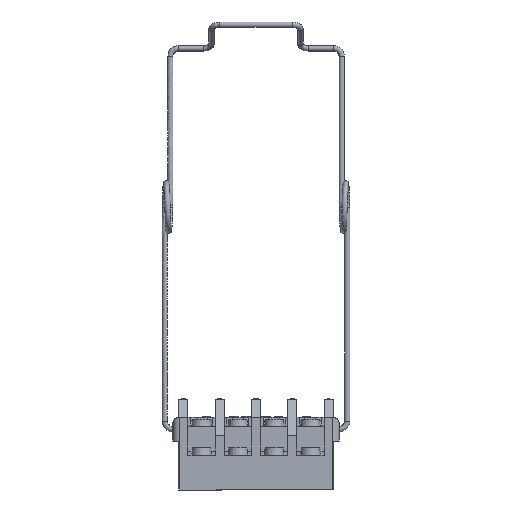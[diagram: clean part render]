
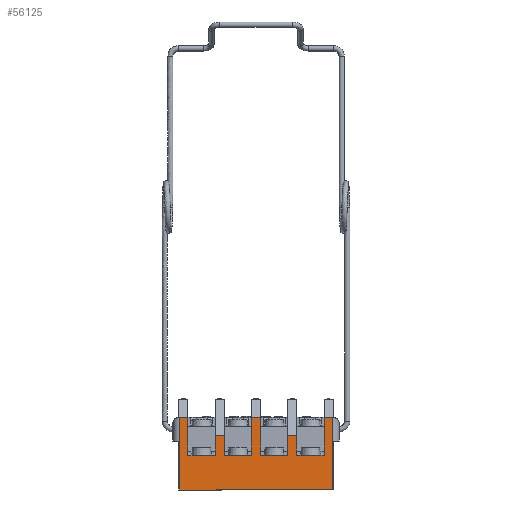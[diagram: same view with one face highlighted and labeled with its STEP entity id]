
A CAD part, left-side view. The second image highlights one B-rep face of the part: STEP entity #56125.
In plain terms, the highlighted planar face has unit normal (-1, 0, 0).
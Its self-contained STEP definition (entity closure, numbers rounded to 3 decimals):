
#14609=CARTESIAN_POINT('',(361.63,277.158,28.858));
#14610=VERTEX_POINT('',#14609);
#14617=CARTESIAN_POINT('',(361.63,277.158,18.458));
#14618=VERTEX_POINT('',#14617);
#14619=CARTESIAN_POINT('',(361.63,277.158,18.458));
#14620=DIRECTION('',(0.0,0.0,1.0));
#14621=VECTOR('',#14620,10.4);
#14622=LINE('',#14619,#14621);
#14623=EDGE_CURVE('',#14618,#14610,#14622,.T.);
#16407=CARTESIAN_POINT('',(361.63,259.658,18.458));
#16408=VERTEX_POINT('',#16407);
#16415=CARTESIAN_POINT('',(361.63,259.658,28.858));
#16416=VERTEX_POINT('',#16415);
#16417=CARTESIAN_POINT('',(361.63,259.658,28.858));
#16418=DIRECTION('',(0.0,0.0,-1.0));
#16419=VECTOR('',#16418,10.4);
#16420=LINE('',#16417,#16419);
#16421=EDGE_CURVE('',#16416,#16408,#16420,.T.);
#16984=CARTESIAN_POINT('',(361.63,249.658,18.458));
#16985=VERTEX_POINT('',#16984);
#16992=CARTESIAN_POINT('',(361.63,249.658,23.858));
#16993=VERTEX_POINT('',#16992);
#16994=CARTESIAN_POINT('',(361.63,249.658,23.858));
#16995=DIRECTION('',(0.0,0.0,-1.0));
#16996=VECTOR('',#16995,5.4);
#16997=LINE('',#16994,#16996);
#16998=EDGE_CURVE('',#16993,#16985,#16997,.T.);
#17561=CARTESIAN_POINT('',(361.63,239.658,18.458));
#17562=VERTEX_POINT('',#17561);
#17569=CARTESIAN_POINT('',(361.63,239.658,28.858));
#17570=VERTEX_POINT('',#17569);
#17571=CARTESIAN_POINT('',(361.63,239.658,28.858));
#17572=DIRECTION('',(0.0,0.0,-1.0));
#17573=VECTOR('',#17572,10.4);
#17574=LINE('',#17571,#17573);
#17575=EDGE_CURVE('',#17570,#17562,#17574,.T.);
#20267=CARTESIAN_POINT('',(361.63,267.158,23.858));
#20268=VERTEX_POINT('',#20267);
#20275=CARTESIAN_POINT('',(361.63,267.158,18.458));
#20276=VERTEX_POINT('',#20275);
#20277=CARTESIAN_POINT('',(361.63,267.158,18.458));
#20278=DIRECTION('',(0.0,0.0,1.0));
#20279=VECTOR('',#20278,5.4);
#20280=LINE('',#20277,#20279);
#20281=EDGE_CURVE('',#20276,#20268,#20280,.T.);
#21049=CARTESIAN_POINT('',(361.63,269.658,18.458));
#21050=VERTEX_POINT('',#21049);
#21057=CARTESIAN_POINT('',(361.63,269.658,23.858));
#21058=VERTEX_POINT('',#21057);
#21059=CARTESIAN_POINT('',(361.63,269.658,23.858));
#21060=DIRECTION('',(0.0,0.0,-1.0));
#21061=VECTOR('',#21060,5.4);
#21062=LINE('',#21059,#21061);
#21063=EDGE_CURVE('',#21058,#21050,#21062,.T.);
#22146=CARTESIAN_POINT('',(361.63,257.158,28.858));
#22147=VERTEX_POINT('',#22146);
#22154=CARTESIAN_POINT('',(361.63,257.158,18.458));
#22155=VERTEX_POINT('',#22154);
#22156=CARTESIAN_POINT('',(361.63,257.158,18.458));
#22157=DIRECTION('',(0.0,0.0,1.0));
#22158=VECTOR('',#22157,10.4);
#22159=LINE('',#22156,#22158);
#22160=EDGE_CURVE('',#22155,#22147,#22159,.T.);
#49877=CARTESIAN_POINT('',(361.63,237.208,28.858));
#49878=VERTEX_POINT('',#49877);
#49886=CARTESIAN_POINT('',(361.63,237.208,8.858));
#49887=VERTEX_POINT('',#49886);
#49888=CARTESIAN_POINT('',(361.63,237.208,28.858));
#49889=DIRECTION('',(0.0,0.0,-1.0));
#49890=VECTOR('',#49889,20.0);
#49891=LINE('',#49888,#49890);
#49892=EDGE_CURVE('',#49878,#49887,#49891,.T.);
#51937=CARTESIAN_POINT('',(361.63,279.608,8.858));
#51938=VERTEX_POINT('',#51937);
#51946=CARTESIAN_POINT('',(361.63,279.608,28.858));
#51947=VERTEX_POINT('',#51946);
#51948=CARTESIAN_POINT('',(361.63,279.608,8.858));
#51949=DIRECTION('',(0.0,0.0,1.0));
#51950=VECTOR('',#51949,20.0);
#51951=LINE('',#51948,#51950);
#51952=EDGE_CURVE('',#51938,#51947,#51951,.T.);
#52014=CARTESIAN_POINT('',(361.63,279.608,28.858));
#52015=DIRECTION('',(0.0,-1.0,0.0));
#52016=VECTOR('',#52015,2.45);
#52017=LINE('',#52014,#52016);
#52018=EDGE_CURVE('',#51947,#14610,#52017,.T.);
#52142=CARTESIAN_POINT('',(361.63,269.658,18.458));
#52143=DIRECTION('',(0.0,1.0,0.0));
#52144=VECTOR('',#52143,7.5);
#52145=LINE('',#52142,#52144);
#52146=EDGE_CURVE('',#21050,#14618,#52145,.T.);
#52721=CARTESIAN_POINT('',(361.63,279.608,8.858));
#52722=DIRECTION('',(0.0,-1.0,0.0));
#52723=VECTOR('',#52722,42.4);
#52724=LINE('',#52721,#52723);
#52725=EDGE_CURVE('',#51938,#49887,#52724,.T.);
#52952=CARTESIAN_POINT('',(361.63,259.658,18.458));
#52953=DIRECTION('',(0.0,1.0,0.0));
#52954=VECTOR('',#52953,7.5);
#52955=LINE('',#52952,#52954);
#52956=EDGE_CURVE('',#16408,#20276,#52955,.T.);
#53416=CARTESIAN_POINT('',(361.63,249.658,18.458));
#53417=DIRECTION('',(0.0,1.0,0.0));
#53418=VECTOR('',#53417,7.5);
#53419=LINE('',#53416,#53418);
#53420=EDGE_CURVE('',#16985,#22155,#53419,.T.);
#53892=CARTESIAN_POINT('',(361.63,247.158,18.458));
#53893=VERTEX_POINT('',#53892);
#53900=CARTESIAN_POINT('',(361.63,239.658,18.458));
#53901=DIRECTION('',(0.0,1.0,0.0));
#53902=VECTOR('',#53901,7.5);
#53903=LINE('',#53900,#53902);
#53904=EDGE_CURVE('',#17562,#53893,#53903,.T.);
#55782=CARTESIAN_POINT('',(361.63,239.658,28.858));
#55783=DIRECTION('',(0.0,-1.0,0.0));
#55784=VECTOR('',#55783,2.45);
#55785=LINE('',#55782,#55784);
#55786=EDGE_CURVE('',#17570,#49878,#55785,.T.);
#55840=CARTESIAN_POINT('',(361.63,259.658,28.858));
#55841=DIRECTION('',(0.0,-1.0,0.0));
#55842=VECTOR('',#55841,2.5);
#55843=LINE('',#55840,#55842);
#55844=EDGE_CURVE('',#16416,#22147,#55843,.T.);
#55928=CARTESIAN_POINT('',(361.63,247.158,23.858));
#55929=VERTEX_POINT('',#55928);
#55930=CARTESIAN_POINT('',(361.63,249.658,23.858));
#55931=DIRECTION('',(0.0,-1.0,0.0));
#55932=VECTOR('',#55931,2.5);
#55933=LINE('',#55930,#55932);
#55934=EDGE_CURVE('',#16993,#55929,#55933,.T.);
#55969=CARTESIAN_POINT('',(361.63,247.158,18.458));
#55970=DIRECTION('',(0.0,0.0,1.0));
#55971=VECTOR('',#55970,5.4);
#55972=LINE('',#55969,#55971);
#55973=EDGE_CURVE('',#53893,#55929,#55972,.T.);
#56074=CARTESIAN_POINT('',(361.63,269.658,23.858));
#56075=DIRECTION('',(0.0,-1.0,0.0));
#56076=VECTOR('',#56075,2.5);
#56077=LINE('',#56074,#56076);
#56078=EDGE_CURVE('',#21058,#20268,#56077,.T.);
#56098=CARTESIAN_POINT('',(361.63,269.658,8.858));
#56099=DIRECTION('',(-1.0,0.0,0.0));
#56100=DIRECTION('',(0.0,0.0,1.0));
#56101=AXIS2_PLACEMENT_3D('',#56098,#56099,#56100);
#56102=PLANE('',#56101);
#56103=ORIENTED_EDGE('',*,*,#52725,.T.);
#56104=ORIENTED_EDGE('',*,*,#49892,.F.);
#56105=ORIENTED_EDGE('',*,*,#55786,.F.);
#56106=ORIENTED_EDGE('',*,*,#17575,.T.);
#56107=ORIENTED_EDGE('',*,*,#53904,.T.);
#56108=ORIENTED_EDGE('',*,*,#55973,.T.);
#56109=ORIENTED_EDGE('',*,*,#55934,.F.);
#56110=ORIENTED_EDGE('',*,*,#16998,.T.);
#56111=ORIENTED_EDGE('',*,*,#53420,.T.);
#56112=ORIENTED_EDGE('',*,*,#22160,.T.);
#56113=ORIENTED_EDGE('',*,*,#55844,.F.);
#56114=ORIENTED_EDGE('',*,*,#16421,.T.);
#56115=ORIENTED_EDGE('',*,*,#52956,.T.);
#56116=ORIENTED_EDGE('',*,*,#20281,.T.);
#56117=ORIENTED_EDGE('',*,*,#56078,.F.);
#56118=ORIENTED_EDGE('',*,*,#21063,.T.);
#56119=ORIENTED_EDGE('',*,*,#52146,.T.);
#56120=ORIENTED_EDGE('',*,*,#14623,.T.);
#56121=ORIENTED_EDGE('',*,*,#52018,.F.);
#56122=ORIENTED_EDGE('',*,*,#51952,.F.);
#56123=EDGE_LOOP('',(#56103,#56104,#56105,#56106,#56107,#56108,#56109,#56110,#56111,#56112,#56113,#56114,#56115,#56116,#56117,#56118,#56119,#56120,#56121,#56122));
#56124=FACE_OUTER_BOUND('',#56123,.T.);
#56125=ADVANCED_FACE('',(#56124),#56102,.T.);
